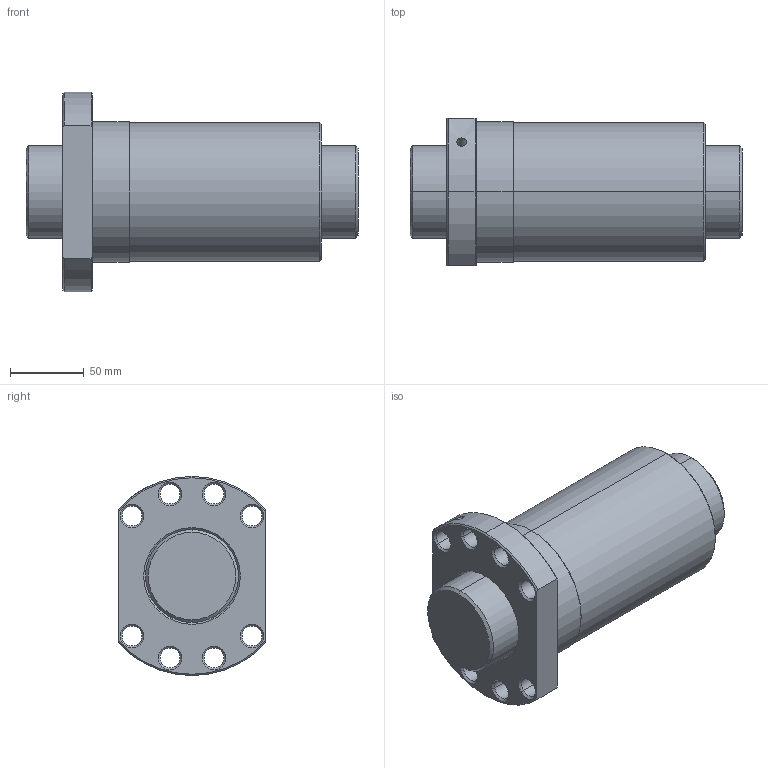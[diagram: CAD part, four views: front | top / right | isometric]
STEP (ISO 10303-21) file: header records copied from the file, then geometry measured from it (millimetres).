
FILE_DESCRIPTION(('no description'),'unknown implementation level');
FILE_NAME('R63_20T5_DEB_225_225_0_023_51.stp',' ',('HIWIN GmbH'),('CADClick - KiM GmbH - www.kimweb.de'),'unknown preprocess','ACIS','unknown authorization');
FILE_SCHEMA(('CONFIG_CONTROL_DESIGN'));
Length unit declared in the file: millimetre
Products named in the file (2): 1; 2
Bounding box: 225 x 100 x 135 mm (x, y, z)
Volume: 1452367.8 mm3; surface area: 160677.8 mm2
Topology: 2 solids, 2 shells, 90 faces, 204 edges, 119 vertices
Faces by surface type: cone 52, cylinder 30, plane 8
Entity records: 2677 total; most frequent: CARTESIAN_POINT 496, DIRECTION 484, ORIENTED_EDGE 404, EDGE_CURVE 202, AXIS2_PLACEMENT_3D 200, VERTEX_POINT 119, EDGE_LOOP 111, CIRCLE 108
